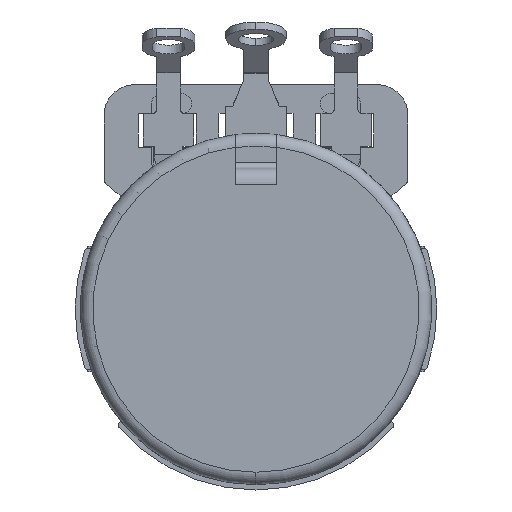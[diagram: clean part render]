
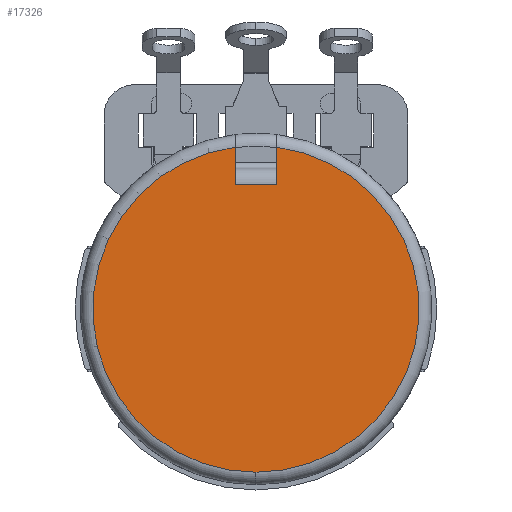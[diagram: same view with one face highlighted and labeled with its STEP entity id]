
A CAD part, front view. The second image highlights one B-rep face of the part: STEP entity #17326.
In plain terms, the highlighted planar face has unit normal (0, -1, 0).
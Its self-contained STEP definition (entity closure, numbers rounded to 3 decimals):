
#887 = VECTOR ( 'NONE', #3604, 1000. ) ;
#1903 = VERTEX_POINT ( 'NONE', #20651 ) ;
#2154 = DIRECTION ( 'NONE',  ( 0., 0., -1. ) ) ;
#2368 = EDGE_LOOP ( 'NONE', ( #16956, #15582, #15177, #20937, #15376 ) ) ;
#2490 = CARTESIAN_POINT ( 'NONE',  ( 1.397, 0., 12.522 ) ) ;
#2596 = VERTEX_POINT ( 'NONE', #4846 ) ;
#2735 = EDGE_CURVE ( 'NONE', #4571, #1903, #5211, .T. ) ;
#2941 = FACE_OUTER_BOUND ( 'NONE', #2368, .T. ) ;
#3170 = DIRECTION ( 'NONE',  ( 0., -1., 0. ) ) ;
#3604 = DIRECTION ( 'NONE',  ( 0., 0., -1. ) ) ;
#4571 = VERTEX_POINT ( 'NONE', #17597 ) ;
#4846 = CARTESIAN_POINT ( 'NONE',  ( 1.397, 0., 8.382 ) ) ;
#5211 = LINE ( 'NONE', #12850, #887 ) ;
#6642 = CARTESIAN_POINT ( 'NONE',  ( 1.397, 0., 10.884 ) ) ;
#7484 = AXIS2_PLACEMENT_3D ( 'NONE', #22838, #18820, #2154 ) ;
#7775 = EDGE_CURVE ( 'NONE', #2596, #1903, #13143, .T. ) ;
#8159 = CARTESIAN_POINT ( 'NONE',  ( -5.207, 0., 0. ) ) ;
#9558 = LINE ( 'NONE', #2490, #12657 ) ;
#9850 = CARTESIAN_POINT ( 'NONE',  ( -1.397, 0., 8.382 ) ) ;
#9979 = CARTESIAN_POINT ( 'NONE',  ( 0., 0., 0. ) ) ;
#11442 = VERTEX_POINT ( 'NONE', #6642 ) ;
#11740 = AXIS2_PLACEMENT_3D ( 'NONE', #9979, #17266, #13137 ) ;
#12657 = VECTOR ( 'NONE', #16981, 1000. ) ;
#12850 = CARTESIAN_POINT ( 'NONE',  ( -1.397, 0., 12.522 ) ) ;
#13137 = DIRECTION ( 'NONE',  ( 0., 0., -1. ) ) ;
#13143 = LINE ( 'NONE', #9850, #15301 ) ;
#13756 = PLANE ( 'NONE',  #14670 ) ;
#14670 = AXIS2_PLACEMENT_3D ( 'NONE', #8159, #3170, #19742 ) ;
#15177 = ORIENTED_EDGE ( 'NONE', *, *, #2735, .F. ) ;
#15194 = EDGE_CURVE ( 'NONE', #4571, #22389, #20700, .T. ) ;
#15301 = VECTOR ( 'NONE', #15448, 1000. ) ;
#15376 = ORIENTED_EDGE ( 'NONE', *, *, #15538, .T. ) ;
#15448 = DIRECTION ( 'NONE',  ( -1., 0., 0. ) ) ;
#15538 = EDGE_CURVE ( 'NONE', #22389, #11442, #19938, .T. ) ;
#15582 = ORIENTED_EDGE ( 'NONE', *, *, #7775, .T. ) ;
#16832 = CARTESIAN_POINT ( 'NONE',  ( 0., 0., -10.973 ) ) ;
#16956 = ORIENTED_EDGE ( 'NONE', *, *, #21001, .F. ) ;
#16981 = DIRECTION ( 'NONE',  ( 0., 0., 1. ) ) ;
#17266 = DIRECTION ( 'NONE',  ( 0., -1., 0. ) ) ;
#17326 = ADVANCED_FACE ( 'NONE', ( #2941 ), #13756, .T. ) ;
#17597 = CARTESIAN_POINT ( 'NONE',  ( -1.397, 0., 10.884 ) ) ;
#18820 = DIRECTION ( 'NONE',  ( 0., -1., 0. ) ) ;
#19742 = DIRECTION ( 'NONE',  ( 0., 0., -1. ) ) ;
#19938 = CIRCLE ( 'NONE', #7484, 10.973 ) ;
#20651 = CARTESIAN_POINT ( 'NONE',  ( -1.397, 0., 8.382 ) ) ;
#20700 = CIRCLE ( 'NONE', #11740, 10.973 ) ;
#20937 = ORIENTED_EDGE ( 'NONE', *, *, #15194, .T. ) ;
#21001 = EDGE_CURVE ( 'NONE', #2596, #11442, #9558, .T. ) ;
#22389 = VERTEX_POINT ( 'NONE', #16832 ) ;
#22838 = CARTESIAN_POINT ( 'NONE',  ( 0., 0., 0. ) ) ;
